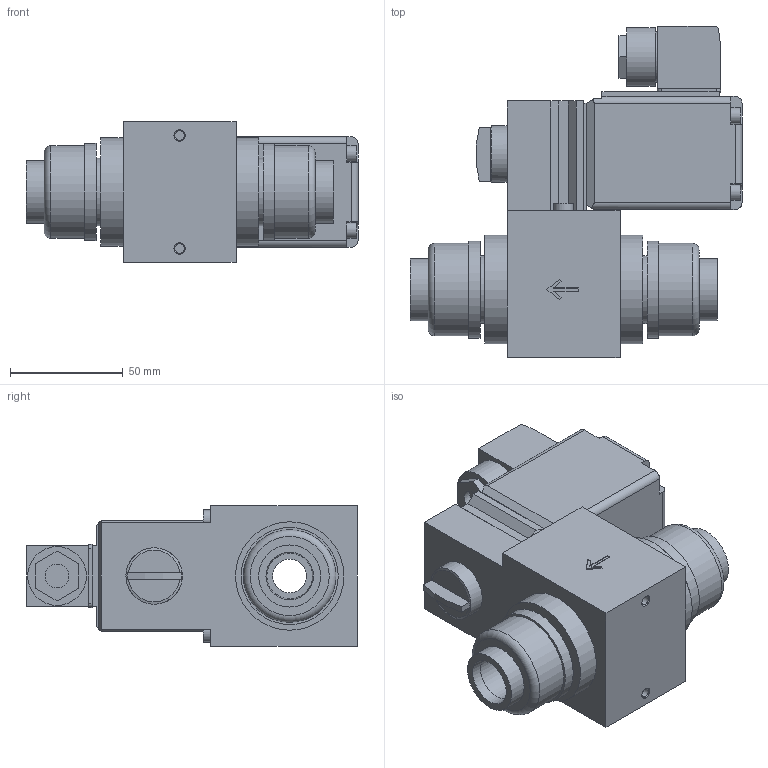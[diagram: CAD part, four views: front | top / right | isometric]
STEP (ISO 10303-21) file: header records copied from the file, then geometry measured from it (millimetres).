
FILE_DESCRIPTION( ( 'STEP AP214' ), '1' );
FILE_NAME( 'p:/temp/worker_18/temp/app_54_02018110106403619640121192d056f_000000_00_00_000000/format_0/0131-045439-Direct-acting_2_2_or_3_2_way_toggle_valves.stp', '2018-11-01T05:40:37', ( '' ), ( '' ), ' ', 'PARTsolutions', ' ' );
FILE_SCHEMA( ( 'AUTOMOTIVE_DESIGN { 1 0 10303 214 1 1 1 1 }' ) );
Length unit declared in the file: millimetre
Products named in the file (1): HI_0131-045439-Direct-acting 2/2 or 3/2 way toggle valves
Bounding box: 147 x 146.5 x 62 mm (x, y, z)
Volume: 561704.5 mm3; surface area: 69730.1 mm2
Topology: 1 solids, 1 shells, 176 faces, 425 edges, 279 vertices
Faces by surface type: plane 125, cylinder 44, torus 4, cone 2, sphere 1
Full cylindrical faces by diameter (mm): 4.134 x2, 7 x4, 8.5 x2, 10.5 x1, 15 x1, 20.2 x2, 22.3 x1, 25 x1, 26 x1, 27.5 x2, 30 x2, 41 x2, 43 x2, 48 x2
Entity records: 6330 total; most frequent: DIRECTION 860, CARTESIAN_POINT 835, ORIENTED_EDGE 772, EDGE_CURVE 386, AXIS2_PLACEMENT_3D 297, VERTEX_POINT 272, LINE 266, VECTOR 266
